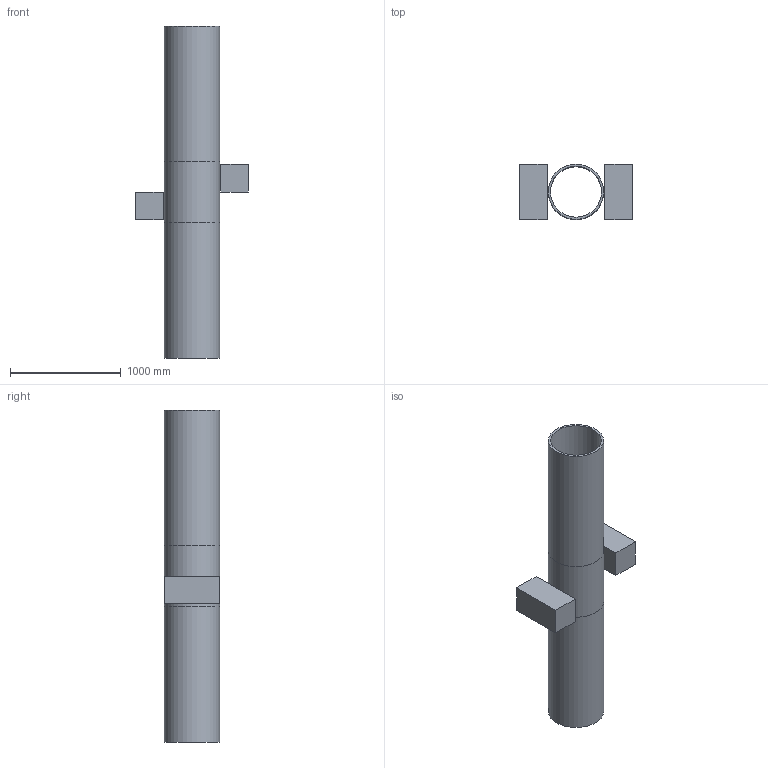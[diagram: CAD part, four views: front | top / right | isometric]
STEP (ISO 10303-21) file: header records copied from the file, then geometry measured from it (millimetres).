
FILE_DESCRIPTION(('FreeCAD Model'),'2;1');
FILE_NAME('L:/05_Technique/02_Mecanique/06_SesamX_user/010_Pipe_crushing/01_Geometry/pipe_crushing_to_mesh.step','2022-07-30T10:34:41',('Author'),( ''),'Open CASCADE STEP processor 7.3','FreeCAD','Unknown');
FILE_SCHEMA(('AUTOMOTIVE_DESIGN { 1 0 10303 214 1 1 1 1 }'));
Length unit declared in the file: millimetre
Products named in the file (1): Pipe_crushing_to_mesh
Bounding box: 1020 x 500 x 3000 mm (x, y, z)
Volume: 152977868.4 mm3; surface area: 10478742.6 mm2
Topology: 5 solids, 5 shells, 24 faces, 42 edges, 28 vertices
Faces by surface type: plane 18, cylinder 6
Full cylindrical faces by diameter (mm): 460 x3, 500 x3
Entity records: 1308 total; most frequent: DIRECTION 188, CARTESIAN_POINT 179, LINE 102, VECTOR 102, ORIENTED_EDGE 84, PCURVE 84, DEFINITIONAL_REPRESENTATION 84, EDGE_CURVE 42
